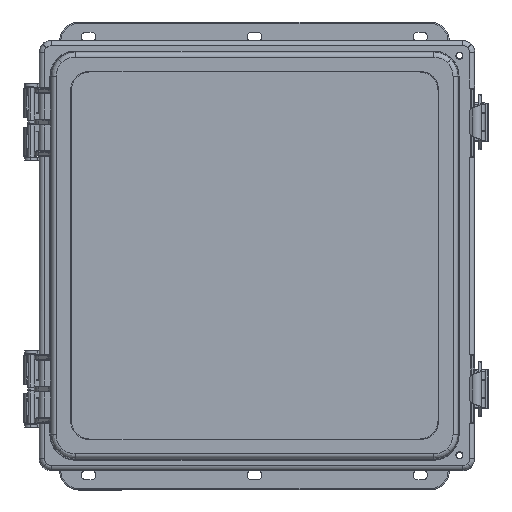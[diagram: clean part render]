
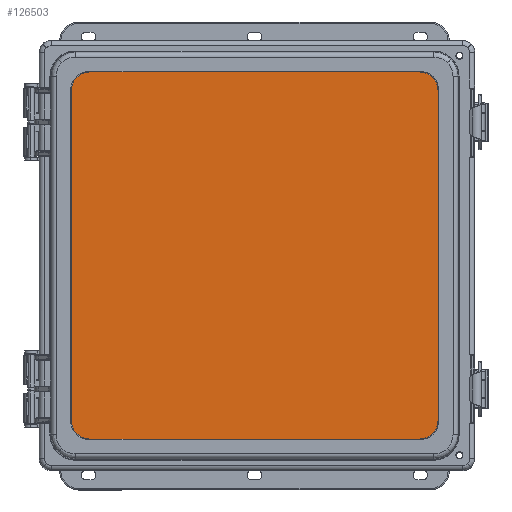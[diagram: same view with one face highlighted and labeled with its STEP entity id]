
A CAD part, top view. The second image highlights one B-rep face of the part: STEP entity #126503.
In plain terms, the highlighted planar face has unit normal (0, 0, 1) as drawn and (0, 0, -1) by its records, which use the part's own axes.
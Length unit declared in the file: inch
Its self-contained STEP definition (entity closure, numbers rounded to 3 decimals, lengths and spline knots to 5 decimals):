
#3474 = ORIENTED_EDGE ( 'NONE', *, *, #140859, .T. ) ;
#5818 = CARTESIAN_POINT ( 'NONE',  ( -4.67539, 4.25916, -1.375 ) ) ;
#5954 = CARTESIAN_POINT ( 'NONE',  ( -4.19666, 4.73789, -1.375 ) ) ;
#6651 = ORIENTED_EDGE ( 'NONE', *, *, #7525, .T. ) ;
#7525 = EDGE_CURVE ( 'NONE', #66356, #141087, #133563, .T. ) ;
#8111 = DIRECTION ( 'NONE',  ( -1., 0., 0. ) ) ;
#11086 = CARTESIAN_POINT ( 'NONE',  ( 4.78912, 4.25916, -1.375 ) ) ;
#12357 = CIRCLE ( 'NONE', #105805, 0.47873 ) ;
#14792 = DIRECTION ( 'NONE',  ( 0., 0., -1. ) ) ;
#16093 = CARTESIAN_POINT ( 'NONE',  ( 4.31039, -4.73789, -1.375 ) ) ;
#16335 = AXIS2_PLACEMENT_3D ( 'NONE', #148245, #78223, #8111 ) ;
#17107 = FACE_OUTER_BOUND ( 'NONE', #42045, .T. ) ;
#18577 = VERTEX_POINT ( 'NONE', #90328 ) ;
#22035 = AXIS2_PLACEMENT_3D ( 'NONE', #105511, #35406, #117256 ) ;
#22840 = DIRECTION ( 'NONE',  ( 0., -1., 0. ) ) ;
#34347 = VECTOR ( 'NONE', #87831, 39.37008 ) ;
#35406 = DIRECTION ( 'NONE',  ( 0., 0., -1. ) ) ;
#36069 = VECTOR ( 'NONE', #86217, 39.37008 ) ;
#36152 = AXIS2_PLACEMENT_3D ( 'NONE', #54825, #136583, #66583 ) ;
#38402 = CIRCLE ( 'NONE', #22035, 0.47873 ) ;
#39452 = VECTOR ( 'NONE', #22840, 39.37008 ) ;
#42045 = EDGE_LOOP ( 'NONE', ( #132547, #124568, #59907, #69801, #59571, #6651, #91099, #3474 ) ) ;
#43614 = CARTESIAN_POINT ( 'NONE',  ( -5.625, 5.5525, -1.375 ) ) ;
#45027 = EDGE_CURVE ( 'NONE', #18577, #107531, #98344, .T. ) ;
#54825 = CARTESIAN_POINT ( 'NONE',  ( -4.19666, -4.25916, -1.375 ) ) ;
#55429 = PLANE ( 'NONE',  #128706 ) ;
#57662 = CARTESIAN_POINT ( 'NONE',  ( 4.78912, -4.25916, -1.375 ) ) ;
#59571 = ORIENTED_EDGE ( 'NONE', *, *, #81036, .T. ) ;
#59907 = ORIENTED_EDGE ( 'NONE', *, *, #123131, .F. ) ;
#65419 = EDGE_CURVE ( 'NONE', #151835, #149468, #12357, .T. ) ;
#66356 = VERTEX_POINT ( 'NONE', #143384 ) ;
#66583 = DIRECTION ( 'NONE',  ( -1., 0., 0. ) ) ;
#67178 = DIRECTION ( 'NONE',  ( 1., 0., 0. ) ) ;
#69801 = ORIENTED_EDGE ( 'NONE', *, *, #65419, .T. ) ;
#76128 = CARTESIAN_POINT ( 'NONE',  ( -4.19666, 4.73789, -1.375 ) ) ;
#78223 = DIRECTION ( 'NONE',  ( 0., 0., -1. ) ) ;
#81036 = EDGE_CURVE ( 'NONE', #149468, #66356, #100319, .T. ) ;
#84885 = CARTESIAN_POINT ( 'NONE',  ( -4.19666, 4.25916, -1.375 ) ) ;
#86217 = DIRECTION ( 'NONE',  ( -1., 0., 0. ) ) ;
#87831 = DIRECTION ( 'NONE',  ( 1., 0., 0. ) ) ;
#90328 = CARTESIAN_POINT ( 'NONE',  ( 4.31039, -4.73789, -1.375 ) ) ;
#91099 = ORIENTED_EDGE ( 'NONE', *, *, #125181, .T. ) ;
#96644 = DIRECTION ( 'NONE',  ( -1., 0., 0. ) ) ;
#98344 = LINE ( 'NONE', #16093, #36069 ) ;
#99396 = VERTEX_POINT ( 'NONE', #57662 ) ;
#100319 = LINE ( 'NONE', #5954, #34347 ) ;
#105511 = CARTESIAN_POINT ( 'NONE',  ( 4.31039, -4.25916, -1.375 ) ) ;
#105805 = AXIS2_PLACEMENT_3D ( 'NONE', #84885, #14792, #96644 ) ;
#107531 = VERTEX_POINT ( 'NONE', #129744 ) ;
#109420 = LINE ( 'NONE', #126450, #133212 ) ;
#113131 = DIRECTION ( 'NONE',  ( 0., 0., 1. ) ) ;
#114693 = DIRECTION ( 'NONE',  ( 0., -1., 0. ) ) ;
#117256 = DIRECTION ( 'NONE',  ( -1., 0., 0. ) ) ;
#122227 = EDGE_CURVE ( 'NONE', #107531, #148363, #151617, .T. ) ;
#123131 = EDGE_CURVE ( 'NONE', #151835, #148363, #109420, .T. ) ;
#124568 = ORIENTED_EDGE ( 'NONE', *, *, #122227, .T. ) ;
#125181 = EDGE_CURVE ( 'NONE', #141087, #99396, #132789, .T. ) ;
#126450 = CARTESIAN_POINT ( 'NONE',  ( -4.67539, 4.25916, -1.375 ) ) ;
#126503 = ADVANCED_FACE ( 'NONE', ( #17107 ), #55429, .F. ) ;
#128706 = AXIS2_PLACEMENT_3D ( 'NONE', #43614, #113131, #67178 ) ;
#129744 = CARTESIAN_POINT ( 'NONE',  ( -4.19666, -4.73789, -1.375 ) ) ;
#132547 = ORIENTED_EDGE ( 'NONE', *, *, #45027, .T. ) ;
#132789 = LINE ( 'NONE', #11086, #39452 ) ;
#133212 = VECTOR ( 'NONE', #114693, 39.37008 ) ;
#133563 = CIRCLE ( 'NONE', #16335, 0.47873 ) ;
#136583 = DIRECTION ( 'NONE',  ( 0., 0., -1. ) ) ;
#140859 = EDGE_CURVE ( 'NONE', #99396, #18577, #38402, .T. ) ;
#141087 = VERTEX_POINT ( 'NONE', #150359 ) ;
#143384 = CARTESIAN_POINT ( 'NONE',  ( 4.31039, 4.73789, -1.375 ) ) ;
#148196 = CARTESIAN_POINT ( 'NONE',  ( -4.67539, -4.25916, -1.375 ) ) ;
#148245 = CARTESIAN_POINT ( 'NONE',  ( 4.31039, 4.25916, -1.375 ) ) ;
#148363 = VERTEX_POINT ( 'NONE', #148196 ) ;
#149468 = VERTEX_POINT ( 'NONE', #76128 ) ;
#150359 = CARTESIAN_POINT ( 'NONE',  ( 4.78912, 4.25916, -1.375 ) ) ;
#151617 = CIRCLE ( 'NONE', #36152, 0.47873 ) ;
#151835 = VERTEX_POINT ( 'NONE', #5818 ) ;
